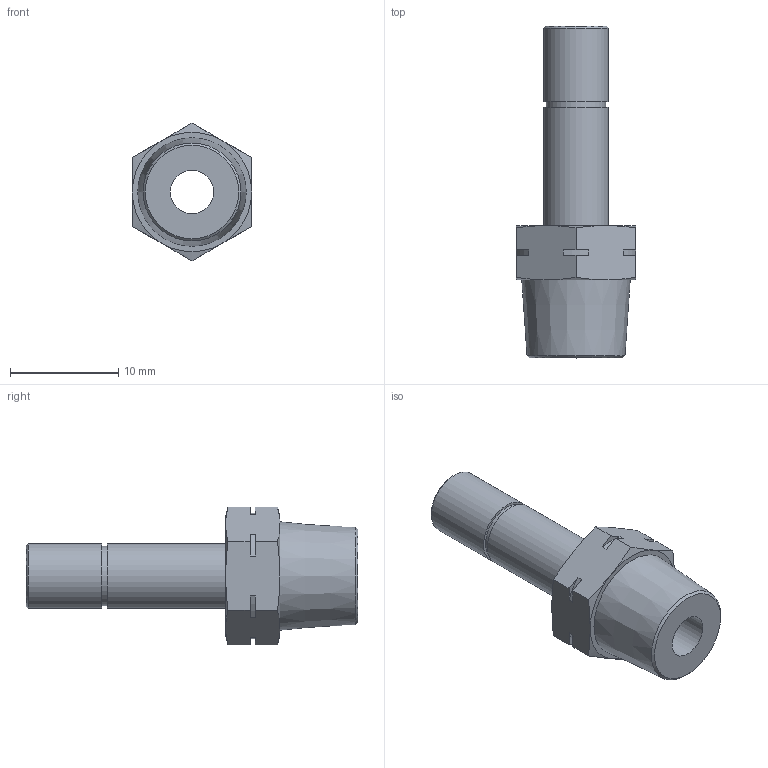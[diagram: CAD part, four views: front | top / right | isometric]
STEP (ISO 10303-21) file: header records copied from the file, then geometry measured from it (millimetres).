
FILE_DESCRIPTION(/* description */ (''),/* implementation_level */ '2;1');
FILE_NAME(/* name */ 'LXH15 0006 N1.stp',/* time_stamp */ '2026-04-28T16:12:05+02:00',/* author */ ('freju'),/* organization */ (''),/* preprocessor_version */ 'ST-DEVELOPER v20.1',/* originating_system */ 'Autodesk Inventor 2026',/* authorisation */ '');
FILE_SCHEMA (('AUTOMOTIVE_DESIGN { 1 0 10303 214 3 1 1 }'));
Length unit declared in the file: millimetre
Products named in the file (1): LXH15 0006 B1
Bounding box: 11 x 30.6 x 12.7 mm (x, y, z)
Volume: 1164.3 mm3; surface area: 1310.8 mm2
Topology: 1 solids, 1 shells, 49 faces, 117 edges, 74 vertices
Faces by surface type: plane 24, cone 15, cylinder 10
Full cylindrical faces by diameter (mm): 4 x1, 5.5 x1, 6 x2
Entity records: 1436 total; most frequent: CARTESIAN_POINT 289, ORIENTED_EDGE 234, DIRECTION 231, EDGE_CURVE 117, AXIS2_PLACEMENT_3D 88, VERTEX_POINT 74, EDGE_LOOP 55, LINE 55
